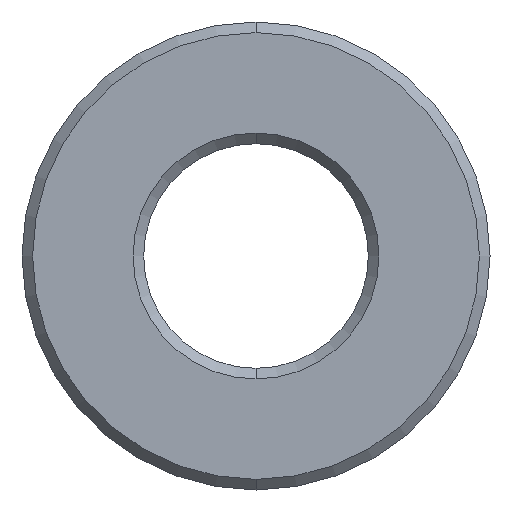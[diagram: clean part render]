
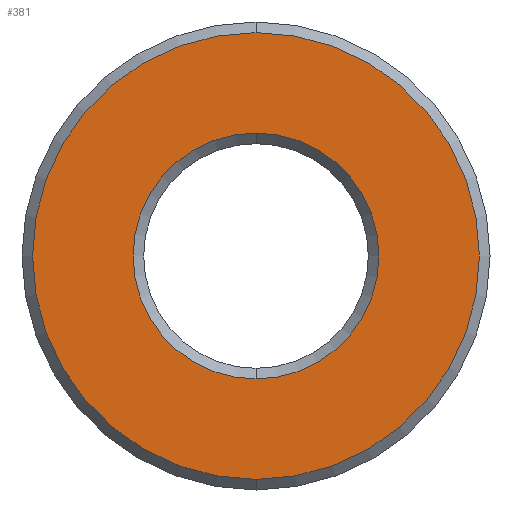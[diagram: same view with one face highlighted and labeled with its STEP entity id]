
A CAD part, front view. The second image highlights one B-rep face of the part: STEP entity #381.
In plain terms, the highlighted planar face has unit normal (0, -1, 0).
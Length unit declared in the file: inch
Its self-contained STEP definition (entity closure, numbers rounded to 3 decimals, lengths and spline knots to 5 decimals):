
#7 = EDGE_CURVE ( 'NONE', #306, #242, #388, .T. ) ;
#19 = ORIENTED_EDGE ( 'NONE', *, *, #7, .T. ) ;
#32 = DIRECTION ( 'NONE',  ( 0., 0., -1. ) ) ;
#40 = CIRCLE ( 'NONE', #207, 0.2525 ) ;
#72 = CARTESIAN_POINT ( 'NONE',  ( 0., -0.106, -0.2525 ) ) ;
#77 = CARTESIAN_POINT ( 'NONE',  ( 0., -0.106, 0. ) ) ;
#79 = FACE_OUTER_BOUND ( 'NONE', #432, .T. ) ;
#83 = AXIS2_PLACEMENT_3D ( 'NONE', #451, #243, #279 ) ;
#111 = DIRECTION ( 'NONE',  ( 0., 0., -1. ) ) ;
#119 = ORIENTED_EDGE ( 'NONE', *, *, #252, .T. ) ;
#145 = DIRECTION ( 'NONE',  ( 0., 1., 0. ) ) ;
#155 = EDGE_LOOP ( 'NONE', ( #337, #119 ) ) ;
#164 = ORIENTED_EDGE ( 'NONE', *, *, #263, .T. ) ;
#166 = DIRECTION ( 'NONE',  ( 0., -1., 0. ) ) ;
#183 = CIRCLE ( 'NONE', #433, 0.139 ) ;
#184 = CARTESIAN_POINT ( 'NONE',  ( 0., -0.106, 0.2525 ) ) ;
#196 = CIRCLE ( 'NONE', #425, 0.139 ) ;
#207 = AXIS2_PLACEMENT_3D ( 'NONE', #77, #452, #111 ) ;
#214 = CARTESIAN_POINT ( 'NONE',  ( 0., -0.106, 0. ) ) ;
#225 = DIRECTION ( 'NONE',  ( 0., 0., -1. ) ) ;
#226 = EDGE_CURVE ( 'NONE', #278, #244, #183, .T. ) ;
#241 = CARTESIAN_POINT ( 'NONE',  ( 0., -0.106, 0. ) ) ;
#242 = VERTEX_POINT ( 'NONE', #72 ) ;
#243 = DIRECTION ( 'NONE',  ( 0., -1., 0. ) ) ;
#244 = VERTEX_POINT ( 'NONE', #275 ) ;
#252 = EDGE_CURVE ( 'NONE', #244, #278, #196, .T. ) ;
#254 = FACE_BOUND ( 'NONE', #155, .T. ) ;
#263 = EDGE_CURVE ( 'NONE', #242, #306, #40, .T. ) ;
#275 = CARTESIAN_POINT ( 'NONE',  ( 0., -0.106, 0.139 ) ) ;
#278 = VERTEX_POINT ( 'NONE', #390 ) ;
#279 = DIRECTION ( 'NONE',  ( 0., 0., -1. ) ) ;
#282 = DIRECTION ( 'NONE',  ( 0., 0., -1. ) ) ;
#283 = DIRECTION ( 'NONE',  ( 0., 1., 0. ) ) ;
#306 = VERTEX_POINT ( 'NONE', #184 ) ;
#316 = PLANE ( 'NONE',  #83 ) ;
#337 = ORIENTED_EDGE ( 'NONE', *, *, #226, .T. ) ;
#367 = CARTESIAN_POINT ( 'NONE',  ( 0., -0.106, 0. ) ) ;
#381 = ADVANCED_FACE ( 'NONE', ( #79, #254 ), #316, .T. ) ;
#385 = AXIS2_PLACEMENT_3D ( 'NONE', #367, #166, #225 ) ;
#388 = CIRCLE ( 'NONE', #385, 0.2525 ) ;
#390 = CARTESIAN_POINT ( 'NONE',  ( 0., -0.106, -0.139 ) ) ;
#425 = AXIS2_PLACEMENT_3D ( 'NONE', #214, #283, #282 ) ;
#432 = EDGE_LOOP ( 'NONE', ( #19, #164 ) ) ;
#433 = AXIS2_PLACEMENT_3D ( 'NONE', #241, #145, #32 ) ;
#451 = CARTESIAN_POINT ( 'NONE',  ( 0., -0.106, 0. ) ) ;
#452 = DIRECTION ( 'NONE',  ( 0., -1., 0. ) ) ;
